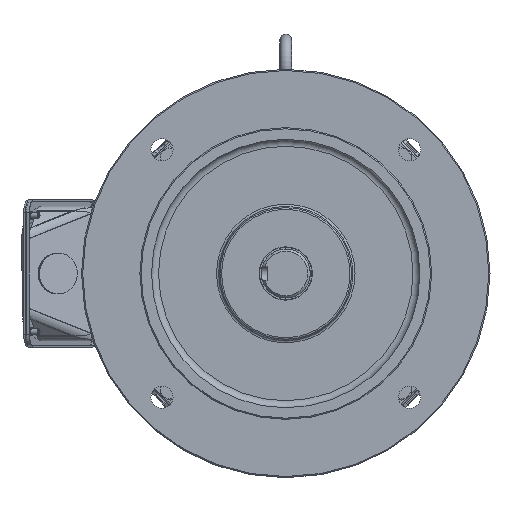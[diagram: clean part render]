
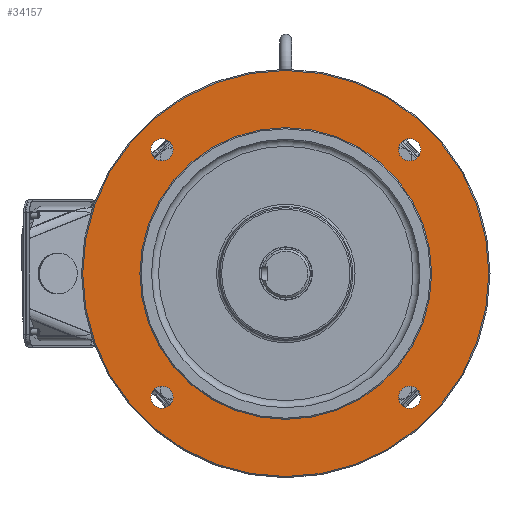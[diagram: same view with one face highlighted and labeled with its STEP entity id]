
A CAD part, front view. The second image highlights one B-rep face of the part: STEP entity #34157.
In plain terms, the highlighted planar face has unit normal (0, -1, 0).
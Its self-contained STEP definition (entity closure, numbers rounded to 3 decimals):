
#8044=ORIENTED_EDGE('',*,*,#16241,.T.);
#8045=ORIENTED_EDGE('',*,*,#16236,.F.);
#8046=ORIENTED_EDGE('',*,*,#16239,.F.);
#8047=ORIENTED_EDGE('',*,*,#16237,.F.);
#8048=ORIENTED_EDGE('',*,*,#16242,.F.);
#8049=ORIENTED_EDGE('',*,*,#16243,.F.);
#16236=EDGE_CURVE('',#20518,#20518,#23162,.T.);
#16237=EDGE_CURVE('',#20519,#20519,#23163,.T.);
#16239=EDGE_CURVE('',#20521,#20521,#23165,.T.);
#16241=EDGE_CURVE('',#20523,#20523,#23167,.T.);
#16242=EDGE_CURVE('',#20524,#20524,#23168,.T.);
#16243=EDGE_CURVE('',#20525,#20525,#23169,.T.);
#20518=VERTEX_POINT('',#55168);
#20519=VERTEX_POINT('',#55171);
#20521=VERTEX_POINT('',#55176);
#20523=VERTEX_POINT('',#55181);
#20524=VERTEX_POINT('',#55183);
#20525=VERTEX_POINT('',#55185);
#23162=CIRCLE('',#36535,125.);
#23163=CIRCLE('',#36537,9.5);
#23165=CIRCLE('',#36540,9.5);
#23167=CIRCLE('',#36543,174.);
#23168=CIRCLE('',#36544,9.5);
#23169=CIRCLE('',#36545,9.5);
#25059=EDGE_LOOP('',(#8044));
#25060=EDGE_LOOP('',(#8045));
#25061=EDGE_LOOP('',(#8046));
#25062=EDGE_LOOP('',(#8047));
#25063=EDGE_LOOP('',(#8048));
#25064=EDGE_LOOP('',(#8049));
#27361=FACE_BOUND('',#25059,.T.);
#27362=FACE_BOUND('',#25060,.T.);
#27363=FACE_BOUND('',#25061,.T.);
#27364=FACE_BOUND('',#25062,.T.);
#27365=FACE_BOUND('',#25063,.T.);
#27366=FACE_BOUND('',#25064,.T.);
#29308=PLANE('',#36542);
#34157=ADVANCED_FACE('',(#27361,#27362,#27363,#27364,#27365,#27366),#29308,
 .T.);
#36535=AXIS2_PLACEMENT_3D('',#55167,#41245,#41246);
#36537=AXIS2_PLACEMENT_3D('',#55170,#41249,#41250);
#36540=AXIS2_PLACEMENT_3D('',#55175,#41255,#41256);
#36542=AXIS2_PLACEMENT_3D('',#55179,#41259,#41260);
#36543=AXIS2_PLACEMENT_3D('',#55180,#41261,#41262);
#36544=AXIS2_PLACEMENT_3D('',#55182,#41263,#41264);
#36545=AXIS2_PLACEMENT_3D('',#55184,#41265,#41266);
#41245=DIRECTION('',(0.,-1.,0.));
#41246=DIRECTION('',(1.,0.,0.));
#41249=DIRECTION('',(0.,-1.,0.));
#41250=DIRECTION('',(-1.,0.,0.));
#41255=DIRECTION('',(0.,-1.,0.));
#41256=DIRECTION('',(0.,0.,1.));
#41259=DIRECTION('',(0.,-1.,0.));
#41260=DIRECTION('',(1.,0.,0.));
#41261=DIRECTION('',(0.,-1.,0.));
#41262=DIRECTION('',(1.,0.,0.));
#41263=DIRECTION('',(0.,-1.,0.));
#41264=DIRECTION('',(0.,0.,-1.));
#41265=DIRECTION('',(0.,-1.,0.));
#41266=DIRECTION('',(1.,0.,0.));
#55167=CARTESIAN_POINT('',(0.,5.,0.));
#55168=CARTESIAN_POINT('',(125.,5.,0.));
#55170=CARTESIAN_POINT('',(106.066,5.,-106.066));
#55171=CARTESIAN_POINT('',(96.566,5.,-106.066));
#55175=CARTESIAN_POINT('',(-106.066,5.,-106.066));
#55176=CARTESIAN_POINT('',(-106.066,5.,-96.566));
#55179=CARTESIAN_POINT('',(0.,5.,125.));
#55180=CARTESIAN_POINT('',(0.,5.,0.));
#55181=CARTESIAN_POINT('',(174.,5.,0.));
#55182=CARTESIAN_POINT('',(106.066,5.,106.066));
#55183=CARTESIAN_POINT('',(106.066,5.,96.566));
#55184=CARTESIAN_POINT('',(-106.066,5.,106.066));
#55185=CARTESIAN_POINT('',(-96.566,5.,106.066));
